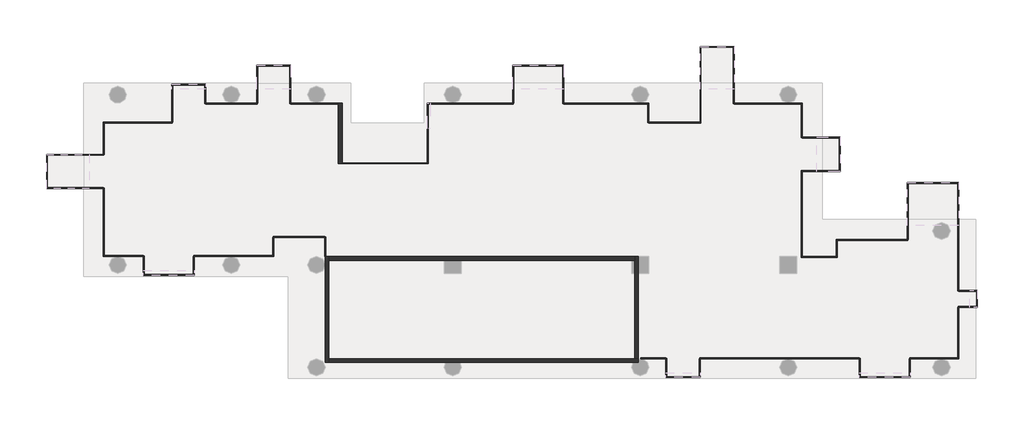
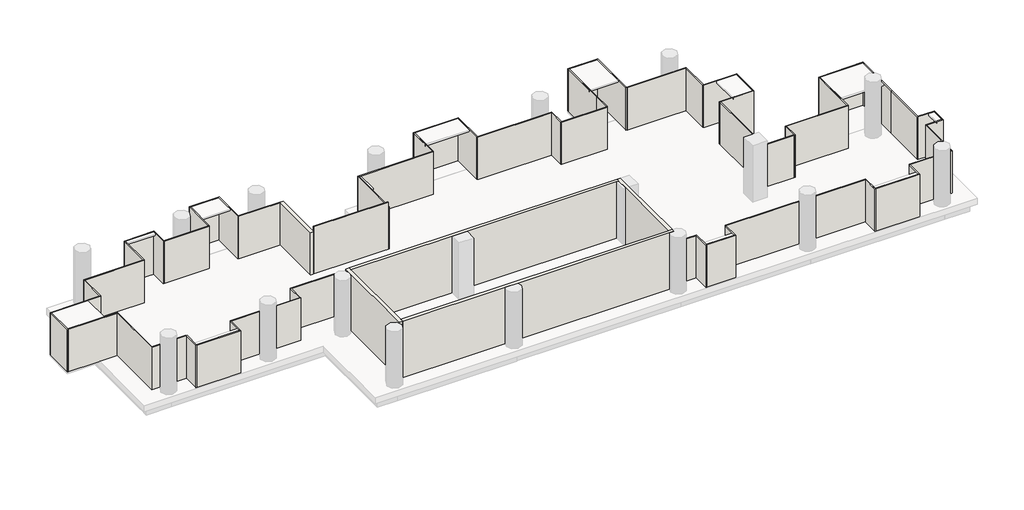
# One storey, part 1 of 2: 66 walls.
"""IFC4 building model written with IfcOpenShell, lengths in millimetres."""

from ifc_helpers import new_model, si_unit, frame, origin, place, context, project, spatial, polyline, outline, extrude, faceted_brep, element, save

model = new_model("IFC4")

# Units and contexts
model_context = context("Model", 3, world=origin())
ifc_project = project(units=[si_unit("LENGTHUNIT", "METRE", prefix="MILLI")], contexts=[model_context])

# Site, building, storey
site = spatial("IfcSite", under=ifc_project)
building = spatial("IfcBuilding", under=site)
storey = spatial("IfcBuildingStorey", under=building, Name="TW-L 12", Elevation=42399.9999686)

# Walls
placement = place(None, origin())
element("IfcWall", 1, ObjectType="AJN-ARC-CONCRETE WALL-20cm", at=placement, inside=storey, context=model_context, shape_type="Brep", body=[
    faceted_brep([(113050.0, 30750.0, 45999.9999686), (113050.0, 30750.0, 42399.9999686), (113050.0, 25150.0, 42399.9999686), (113050.0, 25150.0, 45999.9999686), (113250.0, 30750.0, 42399.9999686), (113250.0, 30750.0, 45999.9999686), (113250.0, 30550.0, 45999.9999686), (113250.0, 25350.0, 45999.9999686), (113250.0, 25150.0, 45999.9999686), (113250.0, 25150.0, 42399.9999686), (113250.0, 25350.0, 42399.9999686), (113250.0, 30550.0, 42399.9999686), (113097.1743518, 30750.0, 42399.9999686)], [[[0, 1, 2, 3]], [[4, 5, 6, 7, 8, 9, 10, 11]], [[2, 1, 12, 4, 11, 10, 9]], [[0, 3, 8, 7, 6, 5]], [[3, 2, 9, 8]], [[0, 5, 4, 12, 1]]]),
])
element("IfcWall", 2, ObjectType="AJN-ARC-CONCRETE WALL-20cm", at=placement, inside=storey, context=model_context, shape_type="Brep", body=[
    faceted_brep([(113250.0, 25150.0, 42399.9999686), (119425.8342613, 25150.0, 42399.9999686), (120174.1657387, 25150.0, 42399.9999686), (129325.8342613, 25150.0, 42399.9999686), (129600.0, 25150.0, 42399.9999686), (129600.0, 25150.0, 45999.9999686), (129325.8342613, 25150.0, 45999.9999686), (120174.1657387, 25150.0, 45999.9999686), (119425.8342613, 25150.0, 45999.9999686), (113250.0, 25150.0, 45999.9999686), (113250.0, 25350.0, 42399.9999686), (113250.0, 25350.0, 45999.9999686), (129400.0, 25350.0, 45999.9999686), (129600.0, 25350.0, 45999.9999686), (129600.0, 25350.0, 42399.9999686), (129400.0, 25350.0, 42399.9999686), (129600.0, 25338.7482194, 42399.9999686), (129600.0, 25338.7482194, 45999.9999686)], [[[0, 1, 2, 3, 4, 5, 6, 7, 8, 9]], [[10, 11, 12, 13, 14, 15]], [[4, 3, 2, 1, 0, 10, 15, 14, 16]], [[9, 8, 7, 6, 5, 17, 13, 12, 11]], [[5, 4, 16, 14, 13, 17]], [[0, 9, 11, 10]]]),
])
element("IfcWall", 3, ObjectType="AJN-ARC-CONCRETE WALL-20cm", at=placement, inside=storey, context=model_context, shape_type="Brep", body=[
    faceted_brep([(129600.0, 25350.0, 42399.9999686), (129600.0, 29850.0, 42399.9999686), (129600.0, 30750.0, 42399.9999686), (129600.0, 30750.0, 45999.9999686), (129600.0, 29850.0, 45999.9999686), (129600.0, 25350.0, 45999.9999686), (129400.0, 25350.0, 42399.9999686), (129400.0, 25350.0, 45999.9999686), (129400.0, 29850.0, 45999.9999686), (129400.0, 30550.0, 45999.9999686), (129400.0, 30750.0, 45999.9999686), (129400.0, 30750.0, 42399.9999686), (129400.0, 30550.0, 42399.9999686), (129400.0, 29850.0, 42399.9999686)], [[[0, 1, 2, 3, 4, 5]], [[6, 7, 8, 9, 10, 11, 12, 13]], [[2, 1, 0, 6, 13, 12, 11]], [[5, 4, 3, 10, 9, 8, 7]], [[3, 2, 11, 10]], [[0, 5, 7, 6]]]),
])
element("IfcWall", 4, ObjectType="AJN-ARC-CONCRETE WALL-20cm", at=placement, inside=storey, context=model_context, shape_type="Brep", body=[
    faceted_brep([(129400.0, 30750.0, 42399.9999686), (113250.0, 30750.0, 42399.9999686), (113250.0, 30750.0, 45999.9999686), (129400.0, 30750.0, 45999.9999686), (129400.0, 30550.0, 42399.9999686), (129400.0, 30550.0, 45999.9999686), (129250.0, 30550.0, 45999.9999686), (120250.0, 30550.0, 45999.9999686), (119350.0, 30550.0, 45999.9999686), (113250.0, 30550.0, 45999.9999686), (113250.0, 30550.0, 42399.9999686), (119350.0, 30550.0, 42399.9999686), (120250.0, 30550.0, 42399.9999686), (129250.0, 30550.0, 42399.9999686)], [[[0, 1, 2, 3]], [[4, 5, 6, 7, 8, 9, 10, 11, 12, 13]], [[1, 0, 4, 13, 12, 11, 10]], [[3, 2, 9, 8, 7, 6, 5]], [[0, 3, 5, 4]], [[1, 10, 9, 2]]]),
])
element("IfcWall", 5, ObjectType="AJN-ARC-CONCRETE WALL-20cm", at=placement, inside=storey, context=model_context, shape_type="Brep", body=[
    faceted_brep([(113950.0, 35650.0, 42399.9999686), (113950.0, 38850.001152, 42399.9999686), (113950.0, 38850.001152, 45099.9999686), (113950.0, 35650.0, 45099.9999686), (113750.0, 35650.0, 42399.9999686), (113750.0, 35650.0, 45099.9999686), (113750.0, 38800.0010666, 45099.9999686), (113750.0, 38850.0010666, 45099.9999686), (113750.0, 38850.0010666, 42399.9999686), (113750.0, 38800.0010666, 42399.9999686)], [[[0, 1, 2, 3]], [[4, 5, 6, 7, 8, 9]], [[1, 0, 4, 9, 8]], [[3, 2, 7, 6, 5]], [[0, 3, 5, 4]], [[2, 1, 8, 7]]]),
])
element("IfcWall", 6, ObjectType="AJN-ARC-GLASS-50mm", at=placement, inside=storey, context=model_context, shape_type="SweptSolid", body=[
    extrude(outline(polyline([(111250.0, 38850.0), (113750.0, 38850.0010666), (113750.0, 38800.0010666), (111250.0000213, 38800.0), (111250.0, 38850.0)])), frame((0.0, 0.0, 42399.9999686), z_axis=(0.0, 0.0, 1.0), x_axis=(1.0, 0.0, 0.0)), (0.0, 0.0, 1.0), 2700.0),
])
element("IfcWall", 7, ObjectType="AJN-ARC-GLASS-50mm", at=placement, inside=storey, context=model_context, shape_type="Brep", body=[
    faceted_brep([(111250.0, 38824.9999893, 42399.9999686), (111250.0, 40850.0, 42399.9999686), (111250.0, 40850.0, 45099.9999686), (111250.0, 38824.9999893, 45099.9999686), (111200.0, 38824.9999893, 42399.9999686), (111200.0, 38824.9999893, 45099.9999686), (111200.0, 40800.0, 45099.9999686), (111200.0, 40850.0, 45099.9999686), (111200.0, 40850.0, 42399.9999686), (111200.0, 40800.0, 42399.9999686)], [[[0, 1, 2, 3]], [[4, 5, 6, 7, 8, 9]], [[1, 0, 4, 9, 8]], [[3, 2, 7, 6, 5]], [[0, 3, 5, 4]], [[2, 1, 8, 7]]]),
])
element("IfcWall", 8, ObjectType="AJN-ARC-GLASS-50mm", at=placement, inside=storey, context=model_context, shape_type="Brep", body=[
    faceted_brep([(111200.0, 40850.0, 42399.9999686), (109450.0, 40850.0, 42399.9999686), (109450.0, 40850.0, 45099.9999686), (111200.0, 40850.0, 45099.9999686), (111200.0, 40800.0, 42399.9999686), (111200.0, 40800.0, 45099.9999686), (109500.0, 40800.0, 45099.9999686), (109450.0, 40800.0, 45099.9999686), (109450.0, 40800.0, 42399.9999686), (109500.0, 40800.0, 42399.9999686)], [[[0, 1, 2, 3]], [[4, 5, 6, 7, 8, 9]], [[1, 0, 4, 9, 8]], [[3, 2, 7, 6, 5]], [[2, 1, 8, 7]], [[0, 3, 5, 4]]]),
])
element("IfcWall", 9, ObjectType="AJN-ARC-GLASS-50mm", at=placement, inside=storey, context=model_context, shape_type="SweptSolid", body=[
    extrude(outline(polyline([(109450.0, 38850.0), (109450.0, 40800.0), (109500.0, 40800.0), (109500.0, 38850.0), (109450.0, 38850.0)])), frame((0.0, 0.0, 42399.9999686), z_axis=(0.0, 0.0, 1.0), x_axis=(1.0, 0.0, 0.0)), (0.0, 0.0, 1.0), 2700.0),
])
element("IfcWall", 10, ObjectType="AJN-ARC-GLASS-50mm", at=placement, inside=storey, context=model_context, shape_type="SweptSolid", body=[
    extrude(outline(polyline([(106750.0, 38850.0), (109475.0, 38850.0), (109475.0, 38800.0), (106750.0, 38800.0), (106750.0, 38850.0)])), frame((0.0, 0.0, 42399.9999686), z_axis=(0.0, 0.0, 1.0), x_axis=(1.0, 0.0, 0.0)), (0.0, 0.0, 1.0), 2700.0),
])
element("IfcWall", 11, ObjectType="AJN-ARC-GLASS-50mm", at=placement, inside=storey, context=model_context, shape_type="Brep", body=[
    faceted_brep([(106750.0, 38825.0, 42399.9999686), (106750.0, 39850.0, 42399.9999686), (106750.0, 39850.0, 45099.9999686), (106750.0, 38825.0, 45099.9999686), (106700.0, 38825.0, 42399.9999686), (106700.0, 38825.0, 45099.9999686), (106700.0, 39800.0, 45099.9999686), (106700.0, 39850.0, 45099.9999686), (106700.0, 39850.0, 42399.9999686), (106700.0, 39800.0, 42399.9999686)], [[[0, 1, 2, 3]], [[4, 5, 6, 7, 8, 9]], [[1, 0, 4, 9, 8]], [[3, 2, 7, 6, 5]], [[0, 3, 5, 4]], [[2, 1, 8, 7]]]),
])
element("IfcWall", 12, ObjectType="AJN-ARC-GLASS-50mm", at=placement, inside=storey, context=model_context, shape_type="Brep", body=[
    faceted_brep([(106700.0, 39850.0, 42399.9999686), (104950.0, 39850.0, 42399.9999686), (104950.0, 39850.0, 45099.9999686), (106700.0, 39850.0, 45099.9999686), (106700.0, 39800.0, 42399.9999686), (106700.0, 39800.0, 45099.9999686), (105000.0, 39800.0, 45099.9999686), (104950.0, 39800.0, 45099.9999686), (104950.0, 39800.0, 42399.9999686), (105000.0, 39800.0, 42399.9999686)], [[[0, 1, 2, 3]], [[4, 5, 6, 7, 8, 9]], [[1, 0, 4, 9, 8]], [[3, 2, 7, 6, 5]], [[2, 1, 8, 7]], [[0, 3, 5, 4]]]),
])
element("IfcWall", 13, ObjectType="AJN-ARC-GLASS-50mm", at=placement, inside=storey, context=model_context, shape_type="SweptSolid", body=[
    extrude(outline(polyline([(104950.0, 37850.0), (104950.0, 39800.0), (105000.0, 39800.0), (105000.0, 37850.0), (104950.0, 37850.0)])), frame((0.0, 0.0, 42399.9999686), z_axis=(0.0, 0.0, 1.0), x_axis=(1.0, 0.0, 0.0)), (0.0, 0.0, 1.0), 2700.0),
])
element("IfcWall", 14, ObjectType="AJN-ARC-GLASS-50mm", at=placement, inside=storey, context=model_context, shape_type="Brep", body=[
    faceted_brep([(104975.0, 37850.0, 42399.9999686), (101347.1743518, 37850.0, 42399.9999686), (101347.1743518, 37850.0, 45099.9999686), (104975.0, 37850.0, 45099.9999686), (104975.0, 37800.0, 42399.9999686), (104975.0, 37800.0, 45099.9999686), (101397.1743518, 37800.0, 45099.9999686), (101347.1743518, 37800.0, 45099.9999686), (101347.1743518, 37800.0, 42399.9999686), (101397.1743518, 37800.0, 42399.9999686)], [[[0, 1, 2, 3]], [[4, 5, 6, 7, 8, 9]], [[1, 0, 4, 9, 8]], [[3, 2, 7, 6, 5]], [[0, 3, 5, 4]], [[2, 1, 8, 7]]]),
])
element("IfcWall", 15, ObjectType="AJN-ARC-GLASS-50mm", at=placement, inside=storey, context=model_context, shape_type="SweptSolid", body=[
    extrude(outline(polyline([(101347.1743518, 36150.0), (101347.1743518, 37800.0), (101397.1743518, 37800.0), (101397.1743518, 36150.0), (101347.1743518, 36150.0)])), frame((0.0, 0.0, 42399.9999686), z_axis=(0.0, 0.0, 1.0), x_axis=(1.0, 0.0, 0.0)), (0.0, 0.0, 1.0), 2700.0),
])
element("IfcWall", 16, ObjectType="AJN-ARC-GLASS-50mm", at=placement, inside=storey, context=model_context, shape_type="Brep", body=[
    faceted_brep([(101372.1743518, 36150.0, 42399.9999686), (98347.1743518, 36150.0, 42399.9999686), (98347.1743518, 36150.0, 45099.9999686), (101372.1743518, 36150.0, 45099.9999686), (101372.1743518, 36100.0, 42399.9999686), (101372.1743518, 36100.0, 45099.9999686), (98397.1743518, 36100.0, 45099.9999686), (98347.1743518, 36100.0, 45099.9999686), (98347.1743518, 36100.0, 42399.9999686), (98397.1743518, 36100.0, 42399.9999686)], [[[0, 1, 2, 3]], [[4, 5, 6, 7, 8, 9]], [[1, 0, 4, 9, 8]], [[3, 2, 7, 6, 5]], [[0, 3, 5, 4]], [[2, 1, 8, 7]]]),
])
element("IfcWall", 17, ObjectType="AJN-ARC-GLASS-50mm", at=placement, inside=storey, context=model_context, shape_type="Brep", body=[
    faceted_brep([(98347.1743518, 36100.0, 42399.9999686), (98347.1743518, 34350.0, 42399.9999686), (98347.1743518, 34350.0, 45099.9999686), (98347.1743518, 36100.0, 45099.9999686), (98397.1743518, 36100.0, 42399.9999686), (98397.1743518, 36100.0, 45099.9999686), (98397.1743518, 34400.0, 45099.9999686), (98397.1743518, 34350.0, 45099.9999686), (98397.1743518, 34350.0, 42399.9999686), (98397.1743518, 34400.0, 42399.9999686)], [[[0, 1, 2, 3]], [[4, 5, 6, 7, 8, 9]], [[1, 0, 4, 9, 8]], [[3, 2, 7, 6, 5]], [[2, 1, 8, 7]], [[0, 3, 5, 4]]]),
])
element("IfcWall", 18, ObjectType="AJN-ARC-GLASS-50mm", at=placement, inside=storey, context=model_context, shape_type="SweptSolid", body=[
    extrude(outline(polyline([(101347.1743518, 34350.0), (98397.1743518, 34350.0), (98397.1743518, 34400.0), (101347.1743518, 34400.0), (101347.1743518, 34350.0)])), frame((0.0, 0.0, 42399.9999686), z_axis=(0.0, 0.0, 1.0), x_axis=(1.0, 0.0, 0.0)), (0.0, 0.0, 1.0), 2700.0),
])
element("IfcWall", 19, ObjectType="AJN-ARC-GLASS-50mm", at=placement, inside=storey, context=model_context, shape_type="Brep", body=[
    faceted_brep([(101347.1743518, 34375.0, 42399.9999686), (101347.1743518, 30750.0, 42399.9999686), (101347.1743518, 30750.0, 45099.9999686), (101347.1743518, 34375.0, 45099.9999686), (101397.1743518, 34375.0, 42399.9999686), (101397.1743518, 34375.0, 45099.9999686), (101397.1743518, 30800.0, 45099.9999686), (101397.1743518, 30750.0, 45099.9999686), (101397.1743518, 30750.0, 42399.9999686), (101397.1743518, 30800.0, 42399.9999686)], [[[0, 1, 2, 3]], [[4, 5, 6, 7, 8, 9]], [[1, 0, 4, 9, 8]], [[3, 2, 7, 6, 5]], [[0, 3, 5, 4]], [[2, 1, 8, 7]]]),
])
element("IfcWall", 20, ObjectType="AJN-ARC-GLASS-50mm", at=placement, inside=storey, context=model_context, shape_type="SweptSolid", body=[
    extrude(outline(polyline([(103447.1743518, 30750.0), (101397.1743518, 30750.0), (101397.1743518, 30800.0), (103447.1743518, 30800.0), (103447.1743518, 30750.0)])), frame((0.0, 0.0, 42399.9999686), z_axis=(0.0, 0.0, 1.0), x_axis=(1.0, 0.0, 0.0)), (0.0, 0.0, 1.0), 2700.0),
])
element("IfcWall", 21, ObjectType="AJN-ARC-GLASS-50mm", at=placement, inside=storey, context=model_context, shape_type="Brep", body=[
    faceted_brep([(103447.1743518, 30775.0, 42399.9999686), (103447.1743518, 29750.0, 42399.9999686), (103447.1743518, 29750.0, 45099.9999686), (103447.1743518, 30775.0, 45099.9999686), (103497.1743518, 30775.0, 42399.9999686), (103497.1743518, 30775.0, 45099.9999686), (103497.1743518, 29800.0, 45099.9999686), (103497.1743518, 29750.0, 45099.9999686), (103497.1743518, 29750.0, 42399.9999686), (103497.1743518, 29800.0, 42399.9999686)], [[[0, 1, 2, 3]], [[4, 5, 6, 7, 8, 9]], [[1, 0, 4, 9, 8]], [[3, 2, 7, 6, 5]], [[0, 3, 5, 4]], [[2, 1, 8, 7]]]),
])
element("IfcWall", 22, ObjectType="AJN-ARC-GLASS-50mm", at=placement, inside=storey, context=model_context, shape_type="Brep", body=[
    faceted_brep([(103497.1743518, 29750.0, 42399.9999686), (106147.1743518, 29750.0, 42399.9999686), (106147.1743518, 29750.0, 45099.9999686), (103497.1743518, 29750.0, 45099.9999686), (103497.1743518, 29800.0, 42399.9999686), (103497.1743518, 29800.0, 45099.9999686), (106097.1743518, 29800.0, 45099.9999686), (106147.1743518, 29800.0, 45099.9999686), (106147.1743518, 29800.0, 42399.9999686), (106097.1743518, 29800.0, 42399.9999686)], [[[0, 1, 2, 3]], [[4, 5, 6, 7, 8, 9]], [[1, 0, 4, 9, 8]], [[3, 2, 7, 6, 5]], [[2, 1, 8, 7]], [[0, 3, 5, 4]]]),
])
element("IfcWall", 23, ObjectType="AJN-ARC-GLASS-50mm", at=placement, inside=storey, context=model_context, shape_type="SweptSolid", body=[
    extrude(outline(polyline([(106147.1743518, 30750.0), (106147.1743518, 29800.0), (106097.1743518, 29800.0), (106097.1743518, 30750.0), (106147.1743518, 30750.0)])), frame((0.0, 0.0, 42399.9999686), z_axis=(0.0, 0.0, 1.0), x_axis=(1.0, 0.0, 0.0)), (0.0, 0.0, 1.0), 2700.0),
])
element("IfcWall", 24, ObjectType="AJN-ARC-GLASS-50mm", at=placement, inside=storey, context=model_context, shape_type="Brep", body=[
    faceted_brep([(106122.1743518, 30750.0, 42399.9999686), (110347.1743518, 30750.0, 42399.9999686), (110347.1743518, 30750.0, 45099.9999686), (106122.1743518, 30750.0, 45099.9999686), (106122.1743518, 30800.0, 42399.9999686), (106122.1743518, 30800.0, 45099.9999686), (110297.1743518, 30800.0, 45099.9999686), (110347.1743518, 30800.0, 45099.9999686), (110347.1743518, 30800.0, 42399.9999686), (110297.1743518, 30800.0, 42399.9999686)], [[[0, 1, 2, 3]], [[4, 5, 6, 7, 8, 9]], [[1, 0, 4, 9, 8]], [[3, 2, 7, 6, 5]], [[0, 3, 5, 4]], [[2, 1, 8, 7]]]),
])
element("IfcWall", 25, ObjectType="AJN-ARC-GLASS-50mm", at=placement, inside=storey, context=model_context, shape_type="SweptSolid", body=[
    extrude(outline(polyline([(110347.1743518, 31750.0), (110347.1743518, 30800.0), (110297.1743518, 30800.0), (110297.1743518, 31750.0), (110347.1743518, 31750.0)])), frame((0.0, 0.0, 42399.9999686), z_axis=(0.0, 0.0, 1.0), x_axis=(1.0, 0.0, 0.0)), (0.0, 0.0, 1.0), 2700.0),
])
element("IfcWall", 26, ObjectType="AJN-ARC-GLASS-50mm", at=placement, inside=storey, context=model_context, shape_type="SweptSolid", body=[
    extrude(outline(polyline([(113047.1743518, 31750.0), (110322.1743518, 31750.0), (110322.1743518, 31800.0), (113047.1743518, 31800.0), (113047.1743518, 31750.0)])), frame((0.0, 0.0, 42399.9999686), z_axis=(0.0, 0.0, 1.0), x_axis=(1.0, 0.0, 0.0)), (0.0, 0.0, 1.0), 2700.0),
])
element("IfcWall", 27, ObjectType="AJN-ARC-GLASS-50mm", at=placement, inside=storey, context=model_context, shape_type="Brep", body=[
    faceted_brep([(113047.1743518, 31775.0, 42399.9999686), (113047.1743518, 30750.0, 42399.9999686), (113047.1743518, 30750.0, 45099.9999686), (113047.1743518, 31775.0, 45099.9999686), (113097.1743518, 31775.0, 42399.9999686), (113097.1743518, 31775.0, 45099.9999686), (113097.1743518, 30750.0, 45099.9999686), (113097.1743518, 30750.0, 42399.9999686), (113050.0, 30750.0, 42399.9999686)], [[[0, 1, 2, 3]], [[4, 5, 6, 7]], [[1, 0, 4, 7, 8]], [[3, 2, 6, 5]], [[0, 3, 5, 4]], [[2, 1, 8, 7, 6]]]),
])
element("IfcWall", 28, ObjectType="AJN-ARC-GLASS-50mm", at=placement, inside=storey, context=model_context, shape_type="Brep", body=[
    faceted_brep([(138250.0, 30700.0, 42399.9999686), (138250.0, 30750.0, 42399.9999686), (138250.0, 35250.0, 42399.9999686), (138250.0, 35250.0, 45099.9999686), (138250.0, 30750.0, 45099.9999686), (138250.0, 30700.0, 45099.9999686), (138200.0, 30700.0, 42399.9999686), (138200.0, 30700.0, 45099.9999686), (138200.0, 35250.0, 45099.9999686), (138200.0, 35250.0, 42399.9999686)], [[[0, 1, 2, 3, 4, 5]], [[6, 7, 8, 9]], [[2, 1, 0, 6, 9]], [[5, 4, 3, 8, 7]], [[0, 5, 7, 6]], [[3, 2, 9, 8]]]),
])
element("IfcWall", 29, ObjectType="AJN-ARC-GLASS-50mm", at=placement, inside=storey, context=model_context, shape_type="Brep", body=[
    faceted_brep([(138200.0, 35250.0, 42399.9999686), (138250.0, 35250.0, 42399.9999686), (140250.0, 35250.0, 42399.9999686), (140250.0, 35250.0, 45099.9999686), (138250.0, 35250.0, 45099.9999686), (138200.0, 35250.0, 45099.9999686), (138200.0, 35300.0, 42399.9999686), (138200.0, 35300.0, 45099.9999686), (140200.0, 35300.0, 45099.9999686), (140250.0, 35300.0, 45099.9999686), (140250.0, 35300.0, 42399.9999686), (140200.0, 35300.0, 42399.9999686)], [[[0, 1, 2, 3, 4, 5]], [[6, 7, 8, 9, 10, 11]], [[2, 1, 0, 6, 11, 10]], [[5, 4, 3, 9, 8, 7]], [[3, 2, 10, 9]], [[0, 5, 7, 6]]]),
])
element("IfcWall", 30, ObjectType="AJN-ARC-GLASS-50mm", at=placement, inside=storey, context=model_context, shape_type="Brep", body=[
    faceted_brep([(140250.0, 35300.0, 42399.9999686), (140250.0, 37050.0, 42399.9999686), (140250.0, 37050.0, 45099.9999686), (140250.0, 35300.0, 45099.9999686), (140200.0, 35300.0, 42399.9999686), (140200.0, 35300.0, 45099.9999686), (140200.0, 37000.0, 45099.9999686), (140200.0, 37050.0, 45099.9999686), (140200.0, 37050.0, 42399.9999686), (140200.0, 37000.0, 42399.9999686)], [[[0, 1, 2, 3]], [[4, 5, 6, 7, 8, 9]], [[1, 0, 4, 9, 8]], [[3, 2, 7, 6, 5]], [[2, 1, 8, 7]], [[0, 3, 5, 4]]]),
])
element("IfcWall", 31, ObjectType="AJN-ARC-GLASS-50mm", at=placement, inside=storey, context=model_context, shape_type="SweptSolid", body=[
    extrude(outline(polyline([(138250.0, 37050.0), (140200.0, 37050.0), (140200.0, 37000.0), (138250.0, 37000.0), (138250.0, 37050.0)])), frame((0.0, 0.0, 42399.9999686), z_axis=(0.0, 0.0, 1.0), x_axis=(1.0, 0.0, 0.0)), (0.0, 0.0, 1.0), 2700.0),
])
element("IfcWall", 32, ObjectType="AJN-ARC-GLASS-50mm", at=placement, inside=storey, context=model_context, shape_type="Brep", body=[
    faceted_brep([(138250.0, 37025.0, 42399.9999686), (138250.0, 38850.0, 42399.9999686), (138250.0, 38850.0, 45099.9999686), (138250.0, 37025.0, 45099.9999686), (138200.0, 37025.0, 42399.9999686), (138200.0, 37025.0, 45099.9999686), (138200.0, 38800.0, 45099.9999686), (138200.0, 38850.0, 45099.9999686), (138200.0, 38850.0, 42399.9999686), (138200.0, 38800.0, 42399.9999686)], [[[0, 1, 2, 3]], [[4, 5, 6, 7, 8, 9]], [[1, 0, 4, 9, 8]], [[3, 2, 7, 6, 5]], [[0, 3, 5, 4]], [[2, 1, 8, 7]]]),
])
element("IfcWall", 33, ObjectType="AJN-ARC-GLASS-50mm", at=placement, inside=storey, context=model_context, shape_type="SweptSolid", body=[
    extrude(outline(polyline([(134650.0, 38850.0), (138200.0, 38850.0), (138200.0, 38800.0), (134650.0, 38800.0), (134650.0, 38850.0)])), frame((0.0, 0.0, 42399.9999686), z_axis=(0.0, 0.0, 1.0), x_axis=(1.0, 0.0, 0.0)), (0.0, 0.0, 1.0), 2700.0),
])
element("IfcWall", 34, ObjectType="AJN-ARC-GLASS-50mm", at=placement, inside=storey, context=model_context, shape_type="Brep", body=[
    faceted_brep([(134650.0, 38825.0, 42399.9999686), (134650.0, 41850.0, 42399.9999686), (134650.0, 41850.0, 45099.9999686), (134650.0, 38825.0, 45099.9999686), (134600.0, 38825.0, 42399.9999686), (134600.0, 38825.0, 45099.9999686), (134600.0, 41800.0, 45099.9999686), (134600.0, 41850.0, 45099.9999686), (134600.0, 41850.0, 42399.9999686), (134600.0, 41800.0, 42399.9999686)], [[[0, 1, 2, 3]], [[4, 5, 6, 7, 8, 9]], [[1, 0, 4, 9, 8]], [[3, 2, 7, 6, 5]], [[0, 3, 5, 4]], [[2, 1, 8, 7]]]),
])
element("IfcWall", 35, ObjectType="AJN-ARC-GLASS-50mm", at=placement, inside=storey, context=model_context, shape_type="Brep", body=[
    faceted_brep([(134600.0, 41850.0, 42399.9999686), (132850.0, 41850.0, 42399.9999686), (132850.0, 41850.0, 45099.9999686), (134600.0, 41850.0, 45099.9999686), (134600.0, 41800.0, 42399.9999686), (134600.0, 41800.0, 45099.9999686), (132900.0, 41800.0, 45099.9999686), (132850.0, 41800.0, 45099.9999686), (132850.0, 41800.0, 42399.9999686), (132900.0, 41800.0, 42399.9999686)], [[[0, 1, 2, 3]], [[4, 5, 6, 7, 8, 9]], [[1, 0, 4, 9, 8]], [[3, 2, 7, 6, 5]], [[2, 1, 8, 7]], [[0, 3, 5, 4]]]),
])
element("IfcWall", 36, ObjectType="AJN-ARC-GLASS-50mm", at=placement, inside=storey, context=model_context, shape_type="SweptSolid", body=[
    extrude(outline(polyline([(132850.0, 38850.0), (132850.0, 41800.0), (132900.0, 41800.0), (132900.0, 38850.0), (132850.0, 38850.0)])), frame((0.0, 0.0, 42399.9999686), z_axis=(0.0, 0.0, 1.0), x_axis=(1.0, 0.0, 0.0)), (0.0, 0.0, 1.0), 2700.0),
])
element("IfcWall", 37, ObjectType="AJN-ARC-GLASS-50mm", at=placement, inside=storey, context=model_context, shape_type="SweptSolid", body=[
    extrude(outline(polyline([(132850.0, 37850.0), (132850.0, 38850.0), (132900.0, 38850.0), (132900.0, 37850.0), (132850.0, 37850.0)])), frame((0.0, 0.0, 42399.9999686), z_axis=(0.0, 0.0, 1.0), x_axis=(1.0, 0.0, 0.0)), (0.0, 0.0, 1.0), 2700.0),
])
element("IfcWall", 38, ObjectType="AJN-ARC-GLASS-50mm", at=placement, inside=storey, context=model_context, shape_type="SweptSolid", body=[
    extrude(outline(polyline([(130150.0, 37850.0), (132875.0, 37850.0), (132875.0, 37800.0), (130150.0, 37800.0), (130150.0, 37850.0)])), frame((0.0, 0.0, 42399.9999686), z_axis=(0.0, 0.0, 1.0), x_axis=(1.0, 0.0, 0.0)), (0.0, 0.0, 1.0), 2700.0),
])
element("IfcWall", 39, ObjectType="AJN-ARC-GLASS-50mm", at=placement, inside=storey, context=model_context, shape_type="Brep", body=[
    faceted_brep([(130150.0, 37825.0, 42399.9999686), (130150.0, 38850.0, 42399.9999686), (130150.0, 38850.0, 45099.9999686), (130150.0, 37825.0, 45099.9999686), (130100.0, 37825.0, 42399.9999686), (130100.0, 37825.0, 45099.9999686), (130100.0, 38800.0, 45099.9999686), (130100.0, 38850.0, 45099.9999686), (130100.0, 38850.0, 42399.9999686), (130100.0, 38800.0, 42399.9999686)], [[[0, 1, 2, 3]], [[4, 5, 6, 7, 8, 9]], [[1, 0, 4, 9, 8]], [[3, 2, 7, 6, 5]], [[0, 3, 5, 4]], [[2, 1, 8, 7]]]),
])
element("IfcWall", 40, ObjectType="AJN-ARC-GLASS-50mm", at=placement, inside=storey, context=model_context, shape_type="SweptSolid", body=[
    extrude(outline(polyline([(125660.049155, 38850.0), (130100.0, 38850.0), (130100.0, 38800.0), (125660.049155, 38800.0), (125660.049155, 38850.0)])), frame((0.0, 0.0, 42399.9999686), z_axis=(0.0, 0.0, 1.0), x_axis=(1.0, 0.0, 0.0)), (0.0, 0.0, 1.0), 2700.0),
])
element("IfcWall", 41, ObjectType="AJN-ARC-GLASS-50mm", at=placement, inside=storey, context=model_context, shape_type="Brep", body=[
    faceted_brep([(125660.049155, 38825.0, 42399.9999686), (125660.049155, 40850.0, 42399.9999686), (125660.049155, 40850.0, 45099.9999686), (125660.049155, 38825.0, 45099.9999686), (125610.049155, 38825.0, 42399.9999686), (125610.049155, 38825.0, 45099.9999686), (125610.049155, 40800.0, 45099.9999686), (125610.049155, 40850.0, 45099.9999686), (125610.049155, 40850.0, 42399.9999686), (125610.049155, 40800.0, 42399.9999686)], [[[0, 1, 2, 3]], [[4, 5, 6, 7, 8, 9]], [[1, 0, 4, 9, 8]], [[3, 2, 7, 6, 5]], [[0, 3, 5, 4]], [[2, 1, 8, 7]]]),
])
element("IfcWall", 42, ObjectType="AJN-ARC-GLASS-50mm", at=placement, inside=storey, context=model_context, shape_type="Brep", body=[
    faceted_brep([(125610.049155, 40850.0, 42399.9999686), (122960.049155, 40850.0, 42399.9999686), (122960.049155, 40850.0, 45099.9999686), (125610.049155, 40850.0, 45099.9999686), (125610.049155, 40800.0, 42399.9999686), (125610.049155, 40800.0, 45099.9999686), (123010.049155, 40800.0, 45099.9999686), (122960.049155, 40800.0, 45099.9999686), (122960.049155, 40800.0, 42399.9999686), (123010.049155, 40800.0, 42399.9999686)], [[[0, 1, 2, 3]], [[4, 5, 6, 7, 8, 9]], [[1, 0, 4, 9, 8]], [[3, 2, 7, 6, 5]], [[2, 1, 8, 7]], [[0, 3, 5, 4]]]),
])
element("IfcWall", 43, ObjectType="AJN-ARC-GLASS-50mm", at=placement, inside=storey, context=model_context, shape_type="SweptSolid", body=[
    extrude(outline(polyline([(122960.049155, 38850.0), (122960.049155, 40800.0), (123010.049155, 40800.0), (123010.049155, 38850.0), (122960.049155, 38850.0)])), frame((0.0, 0.0, 42399.9999686), z_axis=(0.0, 0.0, 1.0), x_axis=(1.0, 0.0, 0.0)), (0.0, 0.0, 1.0), 2700.0),
])
element("IfcWall", 44, ObjectType="AJN-ARC-GLASS-50mm", at=placement, inside=storey, context=model_context, shape_type="Brep", body=[
    faceted_brep([(122985.049155, 38850.0, 42399.9999686), (118450.0, 38850.0, 42399.9999686), (118450.0, 38850.0, 45099.9999686), (122985.049155, 38850.0, 45099.9999686), (122985.049155, 38800.0, 42399.9999686), (122985.049155, 38800.0, 45099.9999686), (118500.0, 38800.0, 45099.9999686), (118450.0, 38800.0, 45099.9999686), (118450.0, 38800.0, 42399.9999686), (118500.0, 38800.0, 42399.9999686)], [[[0, 1, 2, 3]], [[4, 5, 6, 7, 8, 9]], [[1, 0, 4, 9, 8]], [[3, 2, 7, 6, 5]], [[0, 3, 5, 4]], [[2, 1, 8, 7]]]),
])
element("IfcWall", 45, ObjectType="AJN-ARC-GLASS-50mm", at=placement, inside=storey, context=model_context, shape_type="SweptSolid", body=[
    extrude(outline(polyline([(131050.3663867, 25350.0), (129714.068817, 25350.0), (129714.068817, 25400.0), (131050.3663867, 25400.0), (131050.3663867, 25350.0)])), frame((0.0, 0.0, 42399.9999686), z_axis=(0.0, 0.0, 1.0), x_axis=(1.0, 0.0, 0.0)), (0.0, 0.0, 1.0), 2700.0),
])
element("IfcWall", 46, ObjectType="AJN-ARC-GLASS-50mm", at=placement, inside=storey, context=model_context, shape_type="Brep", body=[
    faceted_brep([(131050.3663867, 25375.0, 42399.9999686), (131050.3663867, 24350.0, 42399.9999686), (131050.3663867, 24350.0, 45099.9999686), (131050.3663867, 25375.0, 45099.9999686), (131100.3663867, 25375.0, 42399.9999686), (131100.3663867, 25375.0, 45099.9999686), (131100.3663867, 24400.0, 45099.9999686), (131100.3663867, 24350.0, 45099.9999686), (131100.3663867, 24350.0, 42399.9999686), (131100.3663867, 24400.0, 42399.9999686)], [[[0, 1, 2, 3]], [[4, 5, 6, 7, 8, 9]], [[1, 0, 4, 9, 8]], [[3, 2, 7, 6, 5]], [[0, 3, 5, 4]], [[2, 1, 8, 7]]]),
])
element("IfcWall", 47, ObjectType="AJN-ARC-GLASS-50mm", at=placement, inside=storey, context=model_context, shape_type="Brep", body=[
    faceted_brep([(131100.3663867, 24350.0, 42399.9999686), (132850.3663867, 24350.0, 42399.9999686), (132850.3663867, 24350.0, 45099.9999686), (131100.3663867, 24350.0, 45099.9999686), (131100.3663867, 24400.0, 42399.9999686), (131100.3663867, 24400.0, 45099.9999686), (132800.3663867, 24400.0, 45099.9999686), (132850.3663867, 24400.0, 45099.9999686), (132850.3663867, 24400.0, 42399.9999686), (132800.3663867, 24400.0, 42399.9999686)], [[[0, 1, 2, 3]], [[4, 5, 6, 7, 8, 9]], [[1, 0, 4, 9, 8]], [[3, 2, 7, 6, 5]], [[2, 1, 8, 7]], [[0, 3, 5, 4]]]),
])
element("IfcWall", 48, ObjectType="AJN-ARC-GLASS-50mm", at=placement, inside=storey, context=model_context, shape_type="SweptSolid", body=[
    extrude(outline(polyline([(132850.3663867, 25350.0), (132850.3663867, 24400.0), (132800.3663867, 24400.0), (132800.3663867, 25350.0), (132850.3663867, 25350.0)])), frame((0.0, 0.0, 42399.9999686), z_axis=(0.0, 0.0, 1.0), x_axis=(1.0, 0.0, 0.0)), (0.0, 0.0, 1.0), 2700.0),
])
element("IfcWall", 49, ObjectType="AJN-ARC-GLASS-50mm", at=placement, inside=storey, context=model_context, shape_type="SweptSolid", body=[
    extrude(outline(polyline([(141250.1367307, 25350.0), (132825.3663867, 25350.0), (132825.3663867, 25400.0), (141250.1367307, 25400.0), (141250.1367307, 25350.0)])), frame((0.0, 0.0, 42399.9999686), z_axis=(0.0, 0.0, 1.0), x_axis=(1.0, 0.0, 0.0)), (0.0, 0.0, 1.0), 2700.0),
])
element("IfcWall", 50, ObjectType="AJN-ARC-GLASS-50mm", at=placement, inside=storey, context=model_context, shape_type="Brep", body=[
    faceted_brep([(141250.1367307, 25375.0, 42399.9999686), (141250.1367307, 24350.0, 42399.9999686), (141250.1367307, 24350.0, 45099.9999686), (141250.1367307, 25375.0, 45099.9999686), (141300.1367307, 25375.0, 42399.9999686), (141300.1367307, 25375.0, 45099.9999686), (141300.1367307, 24400.0, 45099.9999686), (141300.1367307, 24350.0, 45099.9999686), (141300.1367307, 24350.0, 42399.9999686), (141300.1367307, 24400.0, 42399.9999686)], [[[0, 1, 2, 3]], [[4, 5, 6, 7, 8, 9]], [[1, 0, 4, 9, 8]], [[3, 2, 7, 6, 5]], [[0, 3, 5, 4]], [[2, 1, 8, 7]]]),
])
element("IfcWall", 51, ObjectType="AJN-ARC-GLASS-50mm", at=placement, inside=storey, context=model_context, shape_type="Brep", body=[
    faceted_brep([(141300.1367307, 24350.0, 42399.9999686), (143950.1367307, 24350.0, 42399.9999686), (143950.1367307, 24350.0, 45099.9999686), (141300.1367307, 24350.0, 45099.9999686), (141300.1367307, 24400.0, 42399.9999686), (141300.1367307, 24400.0, 45099.9999686), (143900.1367307, 24400.0, 45099.9999686), (143950.1367307, 24400.0, 45099.9999686), (143950.1367307, 24400.0, 42399.9999686), (143900.1367307, 24400.0, 42399.9999686)], [[[0, 1, 2, 3]], [[4, 5, 6, 7, 8, 9]], [[1, 0, 4, 9, 8]], [[3, 2, 7, 6, 5]], [[2, 1, 8, 7]], [[0, 3, 5, 4]]]),
])
element("IfcWall", 52, ObjectType="AJN-ARC-GLASS-50mm", at=placement, inside=storey, context=model_context, shape_type="SweptSolid", body=[
    extrude(outline(polyline([(143950.1367307, 25350.0), (143950.1367307, 24400.0), (143900.1367307, 24400.0), (143900.1367307, 25350.0), (143950.1367307, 25350.0)])), frame((0.0, 0.0, 42399.9999686), z_axis=(0.0, 0.0, 1.0), x_axis=(1.0, 0.0, 0.0)), (0.0, 0.0, 1.0), 2700.0),
])
element("IfcWall", 53, ObjectType="AJN-ARC-GLASS-50mm", at=placement, inside=storey, context=model_context, shape_type="Brep", body=[
    faceted_brep([(143925.1367307, 25350.0, 42399.9999686), (146497.681474, 25350.0, 42399.9999686), (146497.681474, 25350.0, 45099.9999686), (143925.1367307, 25350.0, 45099.9999686), (143925.1367307, 25400.0, 42399.9999686), (143925.1367307, 25400.0, 45099.9999686), (146447.681474, 25400.0, 45099.9999686), (146497.681474, 25400.0, 45099.9999686), (146497.681474, 25400.0, 42399.9999686), (146447.681474, 25400.0, 42399.9999686)], [[[0, 1, 2, 3]], [[4, 5, 6, 7, 8, 9]], [[1, 0, 4, 9, 8]], [[3, 2, 7, 6, 5]], [[0, 3, 5, 4]], [[2, 1, 8, 7]]]),
])
element("IfcWall", 54, ObjectType="AJN-ARC-GLASS-50mm", at=placement, inside=storey, context=model_context, shape_type="SweptSolid", body=[
    extrude(outline(polyline([(146497.681474, 28048.8142781), (146497.681474, 25400.0), (146447.681474, 25400.0), (146447.681474, 28048.8142781), (146497.681474, 28048.8142781)])), frame((0.0, 0.0, 42399.9999686), z_axis=(0.0, 0.0, 1.0), x_axis=(1.0, 0.0, 0.0)), (0.0, 0.0, 1.0), 2700.0),
])
element("IfcWall", 55, ObjectType="AJN-ARC-GLASS-50mm", at=placement, inside=storey, context=model_context, shape_type="Brep", body=[
    faceted_brep([(146472.681474, 28048.8142781, 42399.9999686), (147497.681474, 28048.8142781, 42399.9999686), (147497.681474, 28048.8142781, 45099.9999686), (146472.681474, 28048.8142781, 45099.9999686), (146472.681474, 28098.8142781, 42399.9999686), (146472.681474, 28098.8142781, 45099.9999686), (147447.681474, 28098.8142781, 45099.9999686), (147497.681474, 28098.8142781, 45099.9999686), (147497.681474, 28098.8142781, 42399.9999686), (147447.681474, 28098.8142781, 42399.9999686)], [[[0, 1, 2, 3]], [[4, 5, 6, 7, 8, 9]], [[1, 0, 4, 9, 8]], [[3, 2, 7, 6, 5]], [[0, 3, 5, 4]], [[2, 1, 8, 7]]]),
])
element("IfcWall", 56, ObjectType="AJN-ARC-GLASS-50mm", at=placement, inside=storey, context=model_context, shape_type="Brep", body=[
    faceted_brep([(147497.681474, 28098.8142781, 42399.9999686), (147497.681474, 28948.8142781, 42399.9999686), (147497.681474, 28948.8142781, 45099.9999686), (147497.681474, 28098.8142781, 45099.9999686), (147447.681474, 28098.8142781, 42399.9999686), (147447.681474, 28098.8142781, 45099.9999686), (147447.681474, 28898.8142781, 45099.9999686), (147447.681474, 28948.8142781, 45099.9999686), (147447.681474, 28948.8142781, 42399.9999686), (147447.681474, 28898.8142781, 42399.9999686)], [[[0, 1, 2, 3]], [[4, 5, 6, 7, 8, 9]], [[1, 0, 4, 9, 8]], [[3, 2, 7, 6, 5]], [[2, 1, 8, 7]], [[0, 3, 5, 4]]]),
])
element("IfcWall", 57, ObjectType="AJN-ARC-GLASS-50mm", at=placement, inside=storey, context=model_context, shape_type="SweptSolid", body=[
    extrude(outline(polyline([(146497.681474, 28948.8142781), (147447.681474, 28948.8142781), (147447.681474, 28898.8142781), (146497.681474, 28898.8142781), (146497.681474, 28948.8142781)])), frame((0.0, 0.0, 42399.9999686), z_axis=(0.0, 0.0, 1.0), x_axis=(1.0, 0.0, 0.0)), (0.0, 0.0, 1.0), 2700.0),
])
element("IfcWall", 58, ObjectType="AJN-ARC-GLASS-50mm", at=placement, inside=storey, context=model_context, shape_type="SweptSolid", body=[
    extrude(outline(polyline([(146497.681474, 31651.6593424), (146497.681474, 28923.8142781), (146447.681474, 28923.8142781), (146447.681474, 31651.6593424), (146497.681474, 31651.6593424)])), frame((0.0, 0.0, 42399.9999686), z_axis=(0.0, 0.0, 1.0), x_axis=(1.0, 0.0, 0.0)), (0.0, 0.0, 1.0), 2700.0),
])
element("IfcWall", 59, ObjectType="AJN-ARC-GLASS-50mm", at=placement, inside=storey, context=model_context, shape_type="Brep", body=[
    faceted_brep([(146497.681474, 31651.6593424, 42399.9999686), (146497.681474, 34651.6593424, 42399.9999686), (146497.681474, 34651.6593424, 45099.9999686), (146497.681474, 31651.6593424, 45099.9999686), (146447.681474, 31651.6593424, 42399.9999686), (146447.681474, 31651.6593424, 45099.9999686), (146447.681474, 34601.6593424, 45099.9999686), (146447.681474, 34651.6593424, 45099.9999686), (146447.681474, 34651.6593424, 42399.9999686), (146447.681474, 34601.6593424, 42399.9999686)], [[[0, 1, 2, 3]], [[4, 5, 6, 7, 8, 9]], [[1, 0, 4, 9, 8]], [[3, 2, 7, 6, 5]], [[0, 3, 5, 4]], [[2, 1, 8, 7]]]),
])
element("IfcWall", 60, ObjectType="AJN-ARC-GLASS-50mm", at=placement, inside=storey, context=model_context, shape_type="Brep", body=[
    faceted_brep([(146447.681474, 34651.6593424, 42399.9999686), (143797.681474, 34651.6593424, 42399.9999686), (143797.681474, 34651.6593424, 45099.9999686), (146447.681474, 34651.6593424, 45099.9999686), (146447.681474, 34601.6593424, 42399.9999686), (146447.681474, 34601.6593424, 45099.9999686), (143847.681474, 34601.6593424, 45099.9999686), (143797.681474, 34601.6593424, 45099.9999686), (143797.681474, 34601.6593424, 42399.9999686), (143847.681474, 34601.6593424, 42399.9999686)], [[[0, 1, 2, 3]], [[4, 5, 6, 7, 8, 9]], [[1, 0, 4, 9, 8]], [[3, 2, 7, 6, 5]], [[2, 1, 8, 7]], [[0, 3, 5, 4]]]),
])
element("IfcWall", 61, ObjectType="AJN-ARC-GLASS-50mm", at=placement, inside=storey, context=model_context, shape_type="SweptSolid", body=[
    extrude(outline(polyline([(143797.681474, 31651.6593424), (143797.681474, 34601.6593424), (143847.681474, 34601.6593424), (143847.681474, 31651.6593424), (143797.681474, 31651.6593424)])), frame((0.0, 0.0, 42399.9999686), z_axis=(0.0, 0.0, 1.0), x_axis=(1.0, 0.0, 0.0)), (0.0, 0.0, 1.0), 2700.0),
])
element("IfcWall", 62, ObjectType="AJN-ARC-GLASS-50mm", at=placement, inside=storey, context=model_context, shape_type="Brep", body=[
    faceted_brep([(143822.681474, 31651.6593424, 42399.9999686), (140050.0, 31651.6593424, 42399.9999686), (140050.0, 31651.6593424, 45099.9999686), (143822.681474, 31651.6593424, 45099.9999686), (143822.681474, 31601.6593424, 42399.9999686), (143822.681474, 31601.6593424, 45099.9999686), (140100.0, 31601.6593424, 45099.9999686), (140050.0, 31601.6593424, 45099.9999686), (140050.0, 31601.6593424, 42399.9999686), (140100.0, 31601.6593424, 42399.9999686)], [[[0, 1, 2, 3]], [[4, 5, 6, 7, 8, 9]], [[1, 0, 4, 9, 8]], [[3, 2, 7, 6, 5]], [[0, 3, 5, 4]], [[2, 1, 8, 7]]]),
])
element("IfcWall", 63, ObjectType="AJN-ARC-GLASS-50mm", at=placement, inside=storey, context=model_context, shape_type="Brep", body=[
    faceted_brep([(140050.0, 31601.6593424, 42399.9999686), (140050.0, 30750.0, 42399.9999686), (140050.0, 30700.0, 42399.9999686), (140050.0, 30700.0, 45099.9999686), (140050.0, 30750.0, 45099.9999686), (140050.0, 31601.6593424, 45099.9999686), (140100.0, 31601.6593424, 42399.9999686), (140100.0, 31601.6593424, 45099.9999686), (140100.0, 30700.0, 45099.9999686), (140100.0, 30700.0, 42399.9999686)], [[[0, 1, 2, 3, 4, 5]], [[6, 7, 8, 9]], [[2, 1, 0, 6, 9]], [[5, 4, 3, 8, 7]], [[0, 5, 7, 6]], [[3, 2, 9, 8]]]),
])
element("IfcWall", 64, ObjectType="AJN-ARC-GLASS-50mm", at=placement, inside=storey, context=model_context, shape_type="SweptSolid", body=[
    extrude(outline(polyline([(138250.0, 30750.0), (140050.0, 30750.0), (140050.0, 30700.0), (138250.0, 30700.0), (138250.0, 30750.0)])), frame((0.0, 0.0, 42399.9999686), z_axis=(0.0, 0.0, 1.0), x_axis=(1.0, 0.0, 0.0)), (0.0, 0.0, 1.0), 2700.0),
])
element("IfcWall", 65, ObjectType="AJN-ARC-GLASS-50mm", at=placement, inside=storey, context=model_context, shape_type="SweptSolid", body=[
    extrude(outline(polyline([(118450.0, 35650.0), (118450.0, 38800.0), (118500.0, 38800.0), (118500.0, 35650.0), (118450.0, 35650.0)])), frame((0.0, 0.0, 42399.9999686), z_axis=(0.0, 0.0, 1.0), x_axis=(1.0, 0.0, 0.0)), (0.0, 0.0, 1.0), 2700.0),
])
element("IfcWall", 66, ObjectType="AJN-ARC-GLASS-50mm", at=placement, inside=storey, context=model_context, shape_type="SweptSolid", body=[
    extrude(outline(polyline([(118450.0, 35650.0), (113950.0, 35650.0), (113950.0, 35700.0), (118450.0, 35700.0), (118450.0, 35650.0)])), frame((0.0, 0.0, 42399.9999686), z_axis=(0.0, 0.0, 1.0), x_axis=(1.0, 0.0, 0.0)), (0.0, 0.0, 1.0), 3000.0),
])

save(model, "model.ifc")
